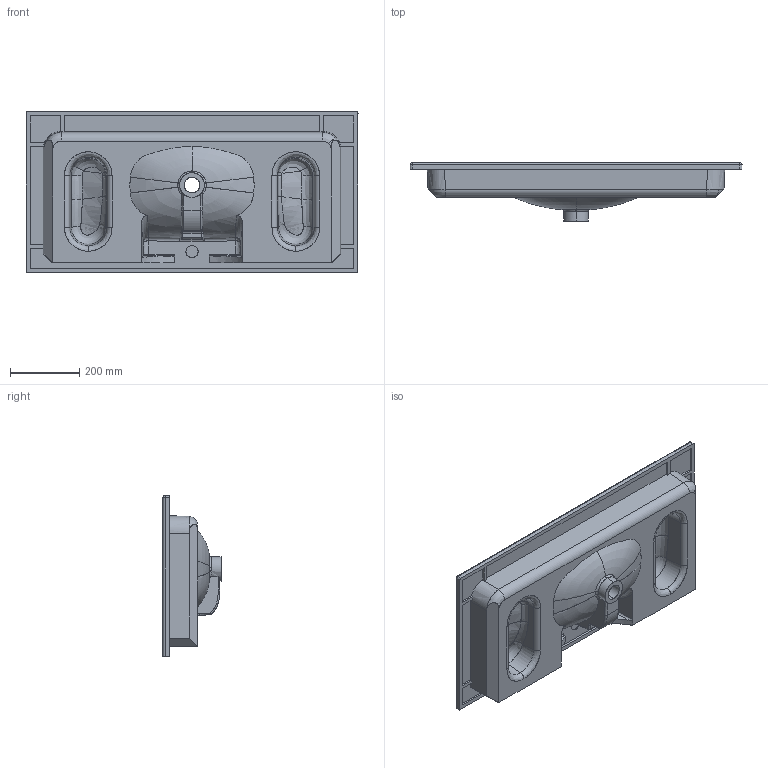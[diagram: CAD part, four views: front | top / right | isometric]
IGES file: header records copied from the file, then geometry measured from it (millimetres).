
Start section: SolidWorks IGES file using NURBS representation for surfaces
Global section: file name: C:\Users\User\Desktop\Soft\lavabi definitivi soft 46 m\soft 960 x 465\definitivo soft 960 x 465.IGS; native system: SolidWorks 2016; preprocessor: SolidWorks 2016; author: User; date: 200804.152526; units: millimetre
Bounding box: 960 x 168 x 465 mm (x, y, z)
Surface area: 1315575.9 mm2 (no closed solid volume)
Topology: 0 solids, 0 shells, 189 faces, 2893 edges, 2885 vertices
Faces by surface type: bspline 189
